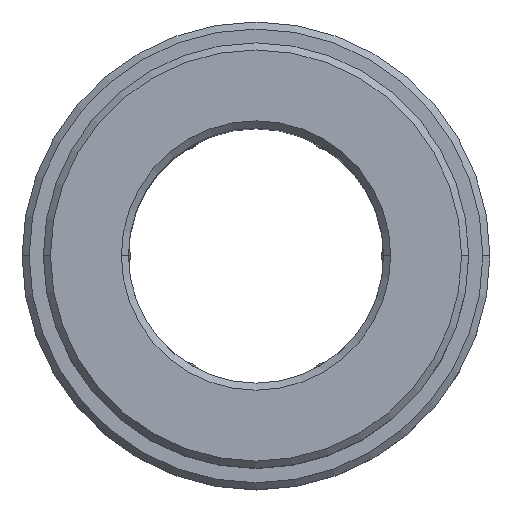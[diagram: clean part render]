
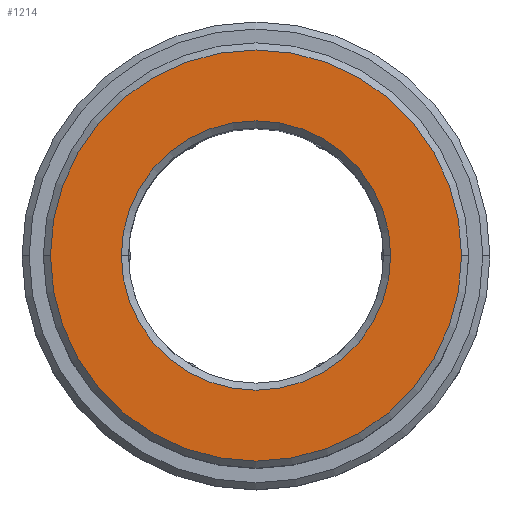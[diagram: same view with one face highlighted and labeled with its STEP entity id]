
A CAD part, top view. The second image highlights one B-rep face of the part: STEP entity #1214.
In plain terms, the highlighted planar face has unit normal (0, 0, 1).
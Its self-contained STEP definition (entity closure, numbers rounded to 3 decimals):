
#293=CARTESIAN_POINT('',(0.,0.,
22.));
#294=DIRECTION('',(0.,0.,-1.));
#295=DIRECTION('',(1.,0.,0.));
#296=AXIS2_PLACEMENT_3D('',#293,#294,#295);
#298=CARTESIAN_POINT('',(0.,0.,
22.));
#299=DIRECTION('',(0.,0.,-1.));
#300=DIRECTION('',(-1.,0.,0.));
#301=AXIS2_PLACEMENT_3D('',#298,#299,#300);
#303=CARTESIAN_POINT('',(0.,0.,22.));
#304=DIRECTION('',(0.,0.,-1.));
#305=DIRECTION('',(-1.,0.,0.));
#306=AXIS2_PLACEMENT_3D('',#303,#304,#305);
#308=CARTESIAN_POINT('',(0.,0.,22.));
#309=DIRECTION('',(0.,0.,-1.));
#310=DIRECTION('',(1.,0.,0.));
#311=AXIS2_PLACEMENT_3D('',#308,#309,#310);
#1033=CARTESIAN_POINT('',(14.5,0.,22.));
#1034=CARTESIAN_POINT('',(-14.5,0.,22.));
#1035=VERTEX_POINT('',#1033);
#1036=VERTEX_POINT('',#1034);
#1037=CARTESIAN_POINT('',(-9.5,0.,22.));
#1038=CARTESIAN_POINT('',(9.5,0.,22.));
#1039=VERTEX_POINT('',#1037);
#1040=VERTEX_POINT('',#1038);
#1199=CARTESIAN_POINT('',(0.,0.,22.));
#1200=DIRECTION('',(0.,0.,1.));
#1201=DIRECTION('',(-1.,0.,0.));
#1202=AXIS2_PLACEMENT_3D('',#1199,#1200,#1201);
#1203=PLANE('',#1202);
#1204=ORIENTED_EDGE('',*,*,#1150,.T.);
#1205=ORIENTED_EDGE('',*,*,#1193,.T.);
#1206=EDGE_LOOP('',(#1204,#1205));
#1207=FACE_OUTER_BOUND('',#1206,.F.);
#1209=ORIENTED_EDGE('',*,*,#1208,.F.);
#1211=ORIENTED_EDGE('',*,*,#1210,.F.);
#1212=EDGE_LOOP('',(#1209,#1211));
#1213=FACE_BOUND('',#1212,.F.);
#1214=ADVANCED_FACE('',(#1207,#1213),#1203,.T.);
#297=CIRCLE('',#296,14.5);
#302=CIRCLE('',#301,14.5);
#307=CIRCLE('',#306,9.5);
#312=CIRCLE('',#311,9.5);
#1150=EDGE_CURVE('',#1035,#1036,#297,.T.);
#1193=EDGE_CURVE('',#1036,#1035,#302,.T.);
#1208=EDGE_CURVE('',#1039,#1040,#307,.T.);
#1210=EDGE_CURVE('',#1040,#1039,#312,.T.);
